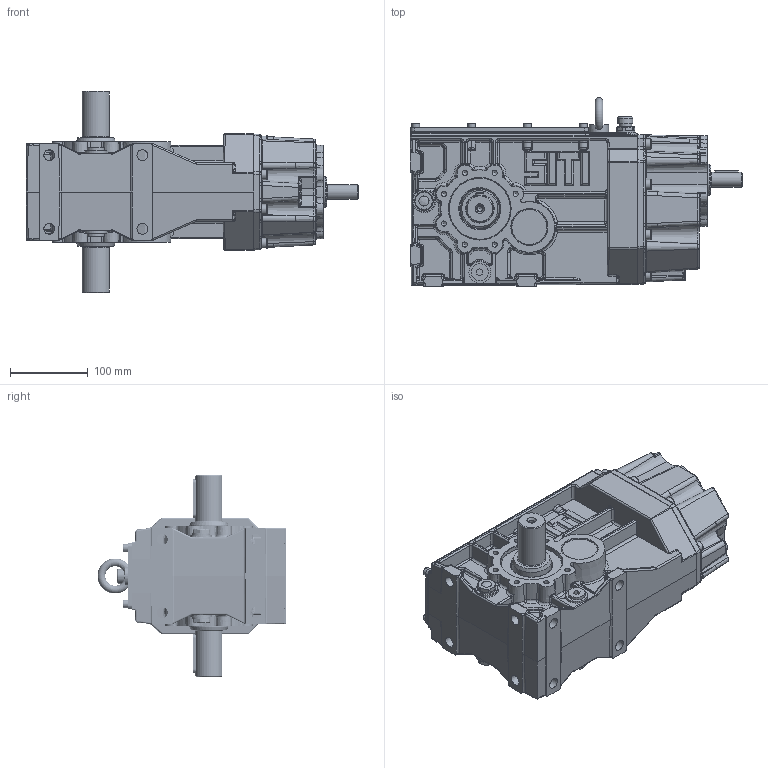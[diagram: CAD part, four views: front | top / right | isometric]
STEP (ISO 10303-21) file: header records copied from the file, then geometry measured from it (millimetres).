
FILE_DESCRIPTION((''),'2;1');
FILE_NAME('O:\Figurini\Figurini BH\3D\BH 63 MD.stp','2013-04-17T17:07:48',('d.iannaccio'),(''),'Autodesk Inventor 2012','Autodesk Inventor 2012','');
FILE_SCHEMA(('AUTOMOTIVE_DESIGN { 1 0 10303 214 1 1 1 1 }'));
Length unit declared in the file: millimetre
Products named in the file (1): BH_63 MD
Bounding box: 428 x 243.47 x 260 mm (x, y, z)
Volume: 3330386.4 mm3; surface area: 771724.2 mm2
Topology: 1 solids, 44 shells, 3388 faces, 8037 edges, 4743 vertices
Faces by surface type: cylinder 1062, plane 960, bspline 666, torus 293, cone 279, sphere 128
Full cylindrical faces by diameter (mm): 4.2 x1, 4.917 x8, 5 x1, 5.3 x1, 6 x16, 6.647 x32, 7 x8, 8 x22, 8.376 x1, 8.4 x2, 8.5 x2, 9 x8, 10 x17, 11 x1, 11.445 x1, 13 x8, 14 x8, 14.95 x5, 16 x1, 18 x1, 19 x1, 19.5 x1, 25 x1, 28 x6, 35 x2, 37.5 x2, 39.592 x1, 39.6 x1, 39.992 x3, 40 x4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
Entity records: 117929 total; most frequent: CARTESIAN_POINT 42070, DIRECTION 14869, ORIENTED_EDGE 14734, EDGE_CURVE 7367, AXIS2_PLACEMENT_3D 6124, VERTEX_POINT 4580, EDGE_LOOP 3974, STYLED_ITEM 3389
